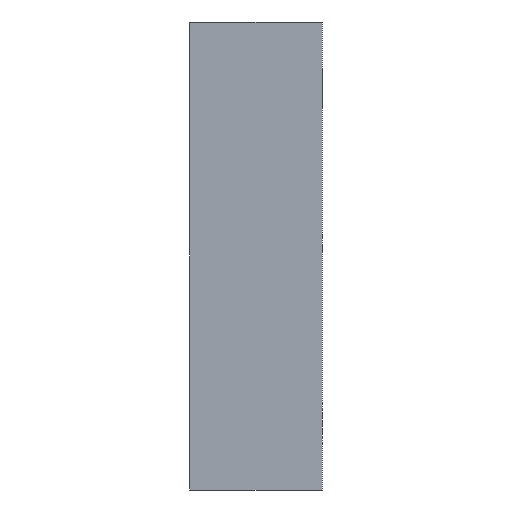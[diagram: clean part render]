
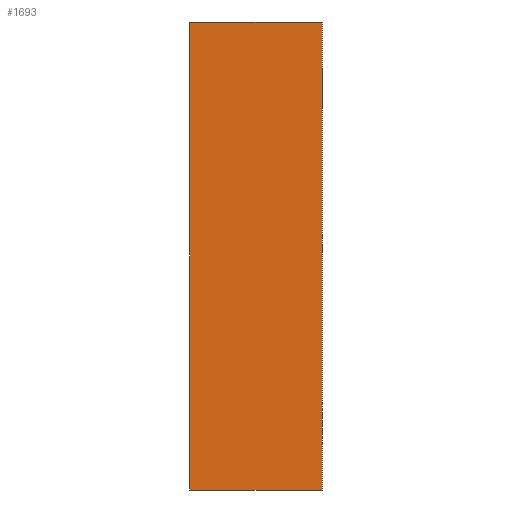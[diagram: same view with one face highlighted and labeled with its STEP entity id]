
A CAD part, left-side view. The second image highlights one B-rep face of the part: STEP entity #1693.
In plain terms, the highlighted planar face has unit normal (-1, 0, 0).
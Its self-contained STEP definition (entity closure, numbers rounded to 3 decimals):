
#59 = VECTOR ( 'NONE', #2307, 1000. ) ;
#69 = DIRECTION ( 'NONE',  ( 0., 1., 0. ) ) ;
#296 = CARTESIAN_POINT ( 'NONE',  ( -34.661, 8.006, 44. ) ) ;
#581 = EDGE_CURVE ( 'NONE', #3177, #5604, #1734, .T. ) ;
#1070 = FACE_OUTER_BOUND ( 'NONE', #2193, .T. ) ;
#1384 = LINE ( 'NONE', #3300, #59 ) ;
#1465 = CARTESIAN_POINT ( 'NONE',  ( -34.661, -16.994, 132. ) ) ;
#1468 = VECTOR ( 'NONE', #2821, 1000. ) ;
#1693 = ADVANCED_FACE ( 'NONE', ( #1070 ), #5287, .T. ) ;
#1701 = DIRECTION ( 'NONE',  ( 0., 0., 1. ) ) ;
#1734 = LINE ( 'NONE', #1465, #5365 ) ;
#2193 = EDGE_LOOP ( 'NONE', ( #3998, #2947, #2706, #2945 ) ) ;
#2222 = AXIS2_PLACEMENT_3D ( 'NONE', #2436, #2478, #2976 ) ;
#2235 = EDGE_CURVE ( 'NONE', #3813, #4821, #4870, .T. ) ;
#2307 = DIRECTION ( 'NONE',  ( 0., 0., 1. ) ) ;
#2436 = CARTESIAN_POINT ( 'NONE',  ( -34.661, -16.994, 44. ) ) ;
#2478 = DIRECTION ( 'NONE',  ( -1., 0., 0. ) ) ;
#2706 = ORIENTED_EDGE ( 'NONE', *, *, #4230, .T. ) ;
#2821 = DIRECTION ( 'NONE',  ( 0., 1., 0. ) ) ;
#2945 = ORIENTED_EDGE ( 'NONE', *, *, #581, .T. ) ;
#2947 = ORIENTED_EDGE ( 'NONE', *, *, #2235, .F. ) ;
#2976 = DIRECTION ( 'NONE',  ( 0., 0., 1. ) ) ;
#3159 = CARTESIAN_POINT ( 'NONE',  ( -34.661, -16.994, 44. ) ) ;
#3177 = VERTEX_POINT ( 'NONE', #5064 ) ;
#3300 = CARTESIAN_POINT ( 'NONE',  ( -34.661, 8.006, 44. ) ) ;
#3346 = EDGE_CURVE ( 'NONE', #4821, #5604, #1384, .T. ) ;
#3775 = CARTESIAN_POINT ( 'NONE',  ( -34.661, 8.006, 132. ) ) ;
#3813 = VERTEX_POINT ( 'NONE', #5137 ) ;
#3998 = ORIENTED_EDGE ( 'NONE', *, *, #3346, .F. ) ;
#4174 = VECTOR ( 'NONE', #1701, 1000. ) ;
#4230 = EDGE_CURVE ( 'NONE', #3813, #3177, #4538, .T. ) ;
#4317 = CARTESIAN_POINT ( 'NONE',  ( -34.661, -16.994, 44. ) ) ;
#4538 = LINE ( 'NONE', #3159, #4174 ) ;
#4821 = VERTEX_POINT ( 'NONE', #296 ) ;
#4870 = LINE ( 'NONE', #4317, #1468 ) ;
#5064 = CARTESIAN_POINT ( 'NONE',  ( -34.661, -16.994, 132. ) ) ;
#5137 = CARTESIAN_POINT ( 'NONE',  ( -34.661, -16.994, 44. ) ) ;
#5287 = PLANE ( 'NONE',  #2222 ) ;
#5365 = VECTOR ( 'NONE', #69, 1000. ) ;
#5604 = VERTEX_POINT ( 'NONE', #3775 ) ;
